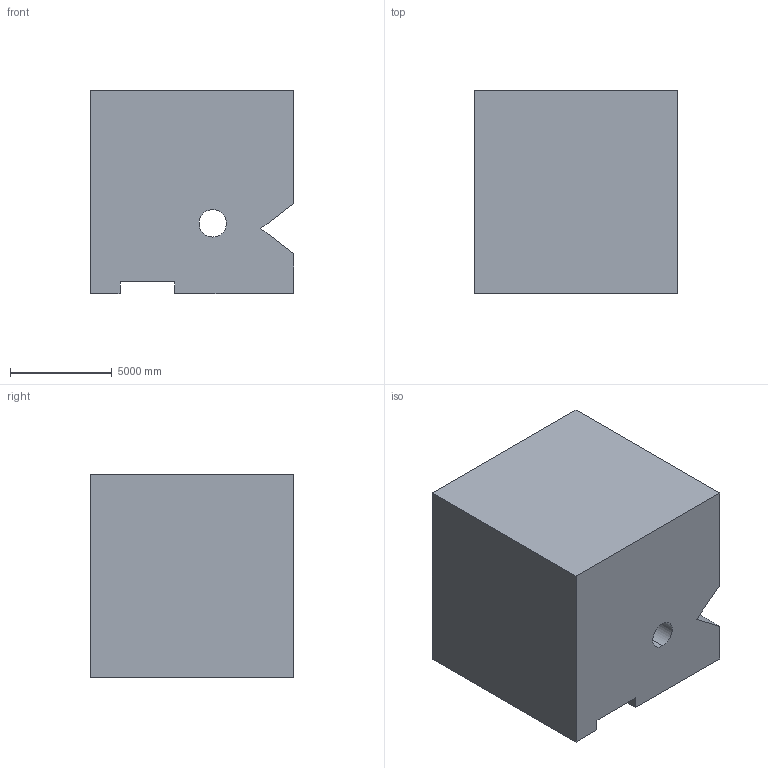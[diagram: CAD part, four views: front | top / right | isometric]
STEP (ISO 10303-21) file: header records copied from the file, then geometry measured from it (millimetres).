
FILE_DESCRIPTION (( 'STEP AP203' ), '1' );
FILE_NAME ('164.STEP', '2022-09-06T13:29:19', ( 'user' ), ( '' ), 'SwSTEP 2.0', 'SolidWorks 2021', '' );
FILE_SCHEMA (( 'CONFIG_CONTROL_DESIGN' ));
Length unit declared in the file: centimetre
Products named in the file (1): 164
Bounding box: 10000 x 10000 x 10000 mm (x, y, z)
Volume: 898984872120.6 mm3; surface area: 735321698.8 mm2
Topology: 1 solids, 1 shells, 31 faces, 84 edges, 56 vertices
Faces by surface type: plane 28, cylinder 3
Entity records: 1045 total; most frequent: CARTESIAN_POINT 175, ORIENTED_EDGE 168, DIRECTION 153, EDGE_CURVE 84, VECTOR 77, LINE 77, VERTEX_POINT 56, AXIS2_PLACEMENT_3D 38
